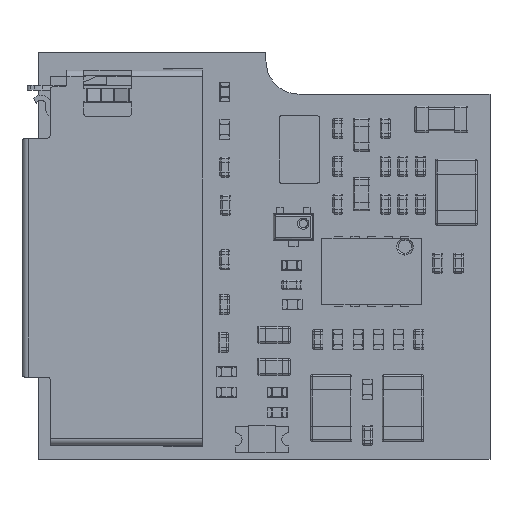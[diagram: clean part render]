
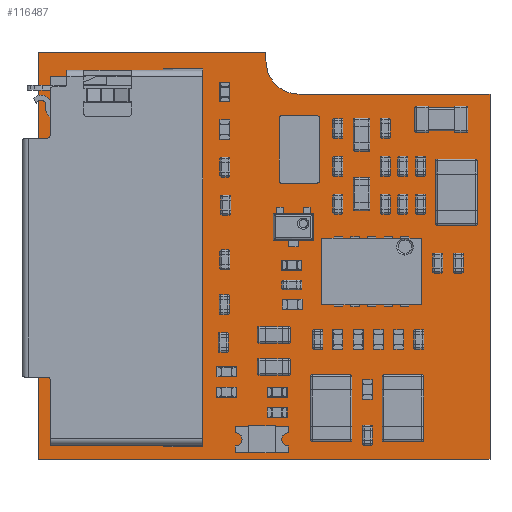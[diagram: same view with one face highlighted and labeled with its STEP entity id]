
A CAD part, top view. The second image highlights one B-rep face of the part: STEP entity #116487.
In plain terms, the highlighted planar face has unit normal (0, 0, 1).
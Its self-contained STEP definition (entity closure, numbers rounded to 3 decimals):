
#115863 = VERTEX_POINT('',#115864);
#115864 = CARTESIAN_POINT('',(-11.6,11.75,0.8));
#115871 = PLANE('',#115872);
#115872 = AXIS2_PLACEMENT_3D('',#115873,#115874,#115875);
#115873 = CARTESIAN_POINT('',(-11.6,11.75,0.));
#115874 = DIRECTION('',(0.,-1.,0.));
#115875 = DIRECTION('',(-1.,0.,0.));
#115883 = PLANE('',#115884);
#115884 = AXIS2_PLACEMENT_3D('',#115885,#115886,#115887);
#115885 = CARTESIAN_POINT('',(-10.75,11.75,0.));
#115886 = DIRECTION('',(0.,-1.,0.));
#115887 = DIRECTION('',(-1.,0.,0.));
#115895 = EDGE_CURVE('',#115863,#115896,#115898,.T.);
#115896 = VERTEX_POINT('',#115897);
#115897 = CARTESIAN_POINT('',(-17.6,11.75,0.8));
#115898 = SURFACE_CURVE('',#115899,(#115903,#115910),.PCURVE_S1.);
#115899 = LINE('',#115900,#115901);
#115900 = CARTESIAN_POINT('',(-11.6,11.75,0.8));
#115901 = VECTOR('',#115902,1.);
#115902 = DIRECTION('',(-1.,0.,0.));
#115903 = PCURVE('',#115871,#115904);
#115904 = DEFINITIONAL_REPRESENTATION('',(#115905),#115909);
#115905 = LINE('',#115906,#115907);
#115906 = CARTESIAN_POINT('',(0.,-0.8));
#115907 = VECTOR('',#115908,1.);
#115908 = DIRECTION('',(1.,0.));
#115909 = ( GEOMETRIC_REPRESENTATION_CONTEXT(2) 
PARAMETRIC_REPRESENTATION_CONTEXT() REPRESENTATION_CONTEXT('2D SPACE',''
  ) );
#115910 = PCURVE('',#115911,#115916);
#115911 = PLANE('',#115912);
#115912 = AXIS2_PLACEMENT_3D('',#115913,#115914,#115915);
#115913 = CARTESIAN_POINT('',(-10.963,5.42,0.8));
#115914 = DIRECTION('',(0.,0.,1.));
#115915 = DIRECTION('',(1.,0.,0.));
#115916 = DEFINITIONAL_REPRESENTATION('',(#115917),#115921);
#115917 = LINE('',#115918,#115919);
#115918 = CARTESIAN_POINT('',(-0.637,6.33));
#115919 = VECTOR('',#115920,1.);
#115920 = DIRECTION('',(-1.,0.));
#115921 = ( GEOMETRIC_REPRESENTATION_CONTEXT(2) 
PARAMETRIC_REPRESENTATION_CONTEXT() REPRESENTATION_CONTEXT('2D SPACE',''
  ) );
#115939 = PLANE('',#115940);
#115940 = AXIS2_PLACEMENT_3D('',#115941,#115942,#115943);
#115941 = CARTESIAN_POINT('',(-17.6,11.75,0.));
#115942 = DIRECTION('',(1.,0.,0.));
#115943 = DIRECTION('',(0.,-1.,0.));
#115981 = EDGE_CURVE('',#115896,#115982,#115984,.T.);
#115982 = VERTEX_POINT('',#115983);
#115983 = CARTESIAN_POINT('',(-17.6,-0.5,0.8));
#115984 = SURFACE_CURVE('',#115985,(#115989,#115996),.PCURVE_S1.);
#115985 = LINE('',#115986,#115987);
#115986 = CARTESIAN_POINT('',(-17.6,11.75,0.8));
#115987 = VECTOR('',#115988,1.);
#115988 = DIRECTION('',(0.,-1.,0.));
#115989 = PCURVE('',#115939,#115990);
#115990 = DEFINITIONAL_REPRESENTATION('',(#115991),#115995);
#115991 = LINE('',#115992,#115993);
#115992 = CARTESIAN_POINT('',(0.,-0.8));
#115993 = VECTOR('',#115994,1.);
#115994 = DIRECTION('',(1.,0.));
#115995 = ( GEOMETRIC_REPRESENTATION_CONTEXT(2) 
PARAMETRIC_REPRESENTATION_CONTEXT() REPRESENTATION_CONTEXT('2D SPACE',''
  ) );
#115996 = PCURVE('',#115911,#115997);
#115997 = DEFINITIONAL_REPRESENTATION('',(#115998),#116002);
#115998 = LINE('',#115999,#116000);
#115999 = CARTESIAN_POINT('',(-6.637,6.33));
#116000 = VECTOR('',#116001,1.);
#116001 = DIRECTION('',(0.,-1.));
#116002 = ( GEOMETRIC_REPRESENTATION_CONTEXT(2) 
PARAMETRIC_REPRESENTATION_CONTEXT() REPRESENTATION_CONTEXT('2D SPACE',''
  ) );
#116020 = PLANE('',#116021);
#116021 = AXIS2_PLACEMENT_3D('',#116022,#116023,#116024);
#116022 = CARTESIAN_POINT('',(-17.6,-0.5,0.));
#116023 = DIRECTION('',(0.,1.,0.));
#116024 = DIRECTION('',(1.,0.,0.));
#116057 = EDGE_CURVE('',#115982,#116058,#116060,.T.);
#116058 = VERTEX_POINT('',#116059);
#116059 = CARTESIAN_POINT('',(-4.,-0.5,0.8));
#116060 = SURFACE_CURVE('',#116061,(#116065,#116072),.PCURVE_S1.);
#116061 = LINE('',#116062,#116063);
#116062 = CARTESIAN_POINT('',(-17.6,-0.5,0.8));
#116063 = VECTOR('',#116064,1.);
#116064 = DIRECTION('',(1.,0.,0.));
#116065 = PCURVE('',#116020,#116066);
#116066 = DEFINITIONAL_REPRESENTATION('',(#116067),#116071);
#116067 = LINE('',#116068,#116069);
#116068 = CARTESIAN_POINT('',(0.,-0.8));
#116069 = VECTOR('',#116070,1.);
#116070 = DIRECTION('',(1.,0.));
#116071 = ( GEOMETRIC_REPRESENTATION_CONTEXT(2) 
PARAMETRIC_REPRESENTATION_CONTEXT() REPRESENTATION_CONTEXT('2D SPACE',''
  ) );
#116072 = PCURVE('',#115911,#116073);
#116073 = DEFINITIONAL_REPRESENTATION('',(#116074),#116078);
#116074 = LINE('',#116075,#116076);
#116075 = CARTESIAN_POINT('',(-6.637,-5.92));
#116076 = VECTOR('',#116077,1.);
#116077 = DIRECTION('',(1.,0.));
#116078 = ( GEOMETRIC_REPRESENTATION_CONTEXT(2) 
PARAMETRIC_REPRESENTATION_CONTEXT() REPRESENTATION_CONTEXT('2D SPACE',''
  ) );
#116096 = PLANE('',#116097);
#116097 = AXIS2_PLACEMENT_3D('',#116098,#116099,#116100);
#116098 = CARTESIAN_POINT('',(-4.,-0.5,0.));
#116099 = DIRECTION('',(-1.,0.,0.));
#116100 = DIRECTION('',(0.,1.,0.));
#116133 = EDGE_CURVE('',#116058,#116134,#116136,.T.);
#116134 = VERTEX_POINT('',#116135);
#116135 = CARTESIAN_POINT('',(-4.,10.5,0.8));
#116136 = SURFACE_CURVE('',#116137,(#116141,#116148),.PCURVE_S1.);
#116137 = LINE('',#116138,#116139);
#116138 = CARTESIAN_POINT('',(-4.,-0.5,0.8));
#116139 = VECTOR('',#116140,1.);
#116140 = DIRECTION('',(0.,1.,0.));
#116141 = PCURVE('',#116096,#116142);
#116142 = DEFINITIONAL_REPRESENTATION('',(#116143),#116147);
#116143 = LINE('',#116144,#116145);
#116144 = CARTESIAN_POINT('',(0.,-0.8));
#116145 = VECTOR('',#116146,1.);
#116146 = DIRECTION('',(1.,0.));
#116147 = ( GEOMETRIC_REPRESENTATION_CONTEXT(2) 
PARAMETRIC_REPRESENTATION_CONTEXT() REPRESENTATION_CONTEXT('2D SPACE',''
  ) );
#116148 = PCURVE('',#115911,#116149);
#116149 = DEFINITIONAL_REPRESENTATION('',(#116150),#116154);
#116150 = LINE('',#116151,#116152);
#116151 = CARTESIAN_POINT('',(6.963,-5.92));
#116152 = VECTOR('',#116153,1.);
#116153 = DIRECTION('',(0.,1.));
#116154 = ( GEOMETRIC_REPRESENTATION_CONTEXT(2) 
PARAMETRIC_REPRESENTATION_CONTEXT() REPRESENTATION_CONTEXT('2D SPACE',''
  ) );
#116172 = PLANE('',#116173);
#116173 = AXIS2_PLACEMENT_3D('',#116174,#116175,#116176);
#116174 = CARTESIAN_POINT('',(-4.,10.5,0.));
#116175 = DIRECTION('',(0.,-1.,0.));
#116176 = DIRECTION('',(-1.,0.,0.));
#116209 = EDGE_CURVE('',#116134,#116210,#116212,.T.);
#116210 = VERTEX_POINT('',#116211);
#116211 = CARTESIAN_POINT('',(-9.75,10.5,0.8));
#116212 = SURFACE_CURVE('',#116213,(#116217,#116224),.PCURVE_S1.);
#116213 = LINE('',#116214,#116215);
#116214 = CARTESIAN_POINT('',(-4.,10.5,0.8));
#116215 = VECTOR('',#116216,1.);
#116216 = DIRECTION('',(-1.,0.,0.));
#116217 = PCURVE('',#116172,#116218);
#116218 = DEFINITIONAL_REPRESENTATION('',(#116219),#116223);
#116219 = LINE('',#116220,#116221);
#116220 = CARTESIAN_POINT('',(0.,-0.8));
#116221 = VECTOR('',#116222,1.);
#116222 = DIRECTION('',(1.,0.));
#116223 = ( GEOMETRIC_REPRESENTATION_CONTEXT(2) 
PARAMETRIC_REPRESENTATION_CONTEXT() REPRESENTATION_CONTEXT('2D SPACE',''
  ) );
#116224 = PCURVE('',#115911,#116225);
#116225 = DEFINITIONAL_REPRESENTATION('',(#116226),#116230);
#116226 = LINE('',#116227,#116228);
#116227 = CARTESIAN_POINT('',(6.963,5.08));
#116228 = VECTOR('',#116229,1.);
#116229 = DIRECTION('',(-1.,0.));
#116230 = ( GEOMETRIC_REPRESENTATION_CONTEXT(2) 
PARAMETRIC_REPRESENTATION_CONTEXT() REPRESENTATION_CONTEXT('2D SPACE',''
  ) );
#116248 = CYLINDRICAL_SURFACE('',#116249,1.);
#116249 = AXIS2_PLACEMENT_3D('',#116250,#116251,#116252);
#116250 = CARTESIAN_POINT('',(-9.75,11.5,0.));
#116251 = DIRECTION('',(0.,0.,-1.));
#116252 = DIRECTION('',(1.,0.,0.));
#116287 = VERTEX_POINT('',#116288);
#116288 = CARTESIAN_POINT('',(-10.75,11.5,0.8));
#116302 = PLANE('',#116303);
#116303 = AXIS2_PLACEMENT_3D('',#116304,#116305,#116306);
#116304 = CARTESIAN_POINT('',(-10.75,11.5,0.));
#116305 = DIRECTION('',(-1.,0.,0.));
#116306 = DIRECTION('',(0.,1.,0.));
#116314 = EDGE_CURVE('',#116287,#116210,#116315,.T.);
#116315 = SURFACE_CURVE('',#116316,(#116321,#116328),.PCURVE_S1.);
#116316 = CIRCLE('',#116317,1.);
#116317 = AXIS2_PLACEMENT_3D('',#116318,#116319,#116320);
#116318 = CARTESIAN_POINT('',(-9.75,11.5,0.8));
#116319 = DIRECTION('',(0.,0.,1.));
#116320 = DIRECTION('',(1.,0.,0.));
#116321 = PCURVE('',#116248,#116322);
#116322 = DEFINITIONAL_REPRESENTATION('',(#116323),#116327);
#116323 = LINE('',#116324,#116325);
#116324 = CARTESIAN_POINT('',(0.,-0.8));
#116325 = VECTOR('',#116326,1.);
#116326 = DIRECTION('',(-1.,0.));
#116327 = ( GEOMETRIC_REPRESENTATION_CONTEXT(2) 
PARAMETRIC_REPRESENTATION_CONTEXT() REPRESENTATION_CONTEXT('2D SPACE',''
  ) );
#116328 = PCURVE('',#115911,#116329);
#116329 = DEFINITIONAL_REPRESENTATION('',(#116330),#116334);
#116330 = CIRCLE('',#116331,1.);
#116331 = AXIS2_PLACEMENT_2D('',#116332,#116333);
#116332 = CARTESIAN_POINT('',(1.213,6.08));
#116333 = DIRECTION('',(1.,0.));
#116334 = ( GEOMETRIC_REPRESENTATION_CONTEXT(2) 
PARAMETRIC_REPRESENTATION_CONTEXT() REPRESENTATION_CONTEXT('2D SPACE',''
  ) );
#116363 = EDGE_CURVE('',#116287,#116364,#116366,.T.);
#116364 = VERTEX_POINT('',#116365);
#116365 = CARTESIAN_POINT('',(-10.75,11.75,0.8));
#116366 = SURFACE_CURVE('',#116367,(#116371,#116378),.PCURVE_S1.);
#116367 = LINE('',#116368,#116369);
#116368 = CARTESIAN_POINT('',(-10.75,11.5,0.8));
#116369 = VECTOR('',#116370,1.);
#116370 = DIRECTION('',(0.,1.,0.));
#116371 = PCURVE('',#116302,#116372);
#116372 = DEFINITIONAL_REPRESENTATION('',(#116373),#116377);
#116373 = LINE('',#116374,#116375);
#116374 = CARTESIAN_POINT('',(0.,-0.8));
#116375 = VECTOR('',#116376,1.);
#116376 = DIRECTION('',(1.,0.));
#116377 = ( GEOMETRIC_REPRESENTATION_CONTEXT(2) 
PARAMETRIC_REPRESENTATION_CONTEXT() REPRESENTATION_CONTEXT('2D SPACE',''
  ) );
#116378 = PCURVE('',#115911,#116379);
#116379 = DEFINITIONAL_REPRESENTATION('',(#116380),#116384);
#116380 = LINE('',#116381,#116382);
#116381 = CARTESIAN_POINT('',(0.213,6.08));
#116382 = VECTOR('',#116383,1.);
#116383 = DIRECTION('',(0.,1.));
#116384 = ( GEOMETRIC_REPRESENTATION_CONTEXT(2) 
PARAMETRIC_REPRESENTATION_CONTEXT() REPRESENTATION_CONTEXT('2D SPACE',''
  ) );
#116434 = EDGE_CURVE('',#116364,#115863,#116435,.T.);
#116435 = SURFACE_CURVE('',#116436,(#116440,#116447),.PCURVE_S1.);
#116436 = LINE('',#116437,#116438);
#116437 = CARTESIAN_POINT('',(-10.75,11.75,0.8));
#116438 = VECTOR('',#116439,1.);
#116439 = DIRECTION('',(-1.,0.,0.));
#116440 = PCURVE('',#115883,#116441);
#116441 = DEFINITIONAL_REPRESENTATION('',(#116442),#116446);
#116442 = LINE('',#116443,#116444);
#116443 = CARTESIAN_POINT('',(0.,-0.8));
#116444 = VECTOR('',#116445,1.);
#116445 = DIRECTION('',(1.,0.));
#116446 = ( GEOMETRIC_REPRESENTATION_CONTEXT(2) 
PARAMETRIC_REPRESENTATION_CONTEXT() REPRESENTATION_CONTEXT('2D SPACE',''
  ) );
#116447 = PCURVE('',#115911,#116448);
#116448 = DEFINITIONAL_REPRESENTATION('',(#116449),#116453);
#116449 = LINE('',#116450,#116451);
#116450 = CARTESIAN_POINT('',(0.213,6.33));
#116451 = VECTOR('',#116452,1.);
#116452 = DIRECTION('',(-1.,0.));
#116453 = ( GEOMETRIC_REPRESENTATION_CONTEXT(2) 
PARAMETRIC_REPRESENTATION_CONTEXT() REPRESENTATION_CONTEXT('2D SPACE',''
  ) );
#116487 = ADVANCED_FACE('',(#116488),#115911,.T.);
#116488 = FACE_BOUND('',#116489,.T.);
#116489 = EDGE_LOOP('',(#116490,#116491,#116492,#116493,#116494,#116495,
    #116496,#116497));
#116490 = ORIENTED_EDGE('',*,*,#115895,.T.);
#116491 = ORIENTED_EDGE('',*,*,#115981,.T.);
#116492 = ORIENTED_EDGE('',*,*,#116057,.T.);
#116493 = ORIENTED_EDGE('',*,*,#116133,.T.);
#116494 = ORIENTED_EDGE('',*,*,#116209,.T.);
#116495 = ORIENTED_EDGE('',*,*,#116314,.F.);
#116496 = ORIENTED_EDGE('',*,*,#116363,.T.);
#116497 = ORIENTED_EDGE('',*,*,#116434,.T.);
